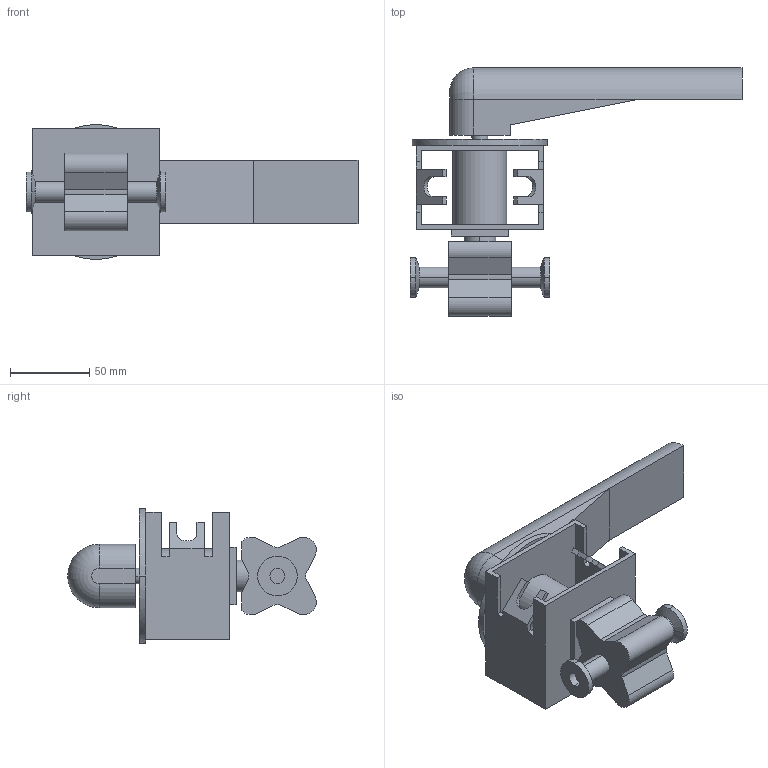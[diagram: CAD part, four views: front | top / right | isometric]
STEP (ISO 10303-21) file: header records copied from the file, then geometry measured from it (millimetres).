
FILE_DESCRIPTION(('Creo Elements/Direct Modeling STEP Export'),'2;1');
FILE_NAME('BLV1-0.5T-HL-12CL.stp','2019-05-10T 7:40:25',(''),(''),'Creo Elements/Direct Modeling STEP processor for AP214 (Solid Model)','Creo Elements/Direct Modeling 19.0F 14-Feb-2017 (C) Parametric Technology GmbH','');
FILE_SCHEMA(('AUTOMOTIVE_DESIGN { 1 0 10303 214 1 1 1 1 }'));
Length unit declared in the file: millimetre
Products named in the file (2): BLV1-0.5T-HL-12CL
Assembly tree (1 placements, depth 2):
  BLV1-0.5T-HL-12CL
    BLV1-0.5T-HL-12CL
Bounding box: 209 x 156.46 x 85 mm (x, y, z)
Volume: 385405.2 mm3; surface area: 84678.6 mm2
Topology: 1 solids, 1 shells, 111 faces, 294 edges, 192 vertices
Faces by surface type: plane 72, cylinder 34, cone 4, torus 1
Entity records: 3245 total; most frequent: ORIENTED_EDGE 588, CARTESIAN_POINT 568, DIRECTION 503, EDGE_CURVE 294, VECTOR 197, LINE 197, VERTEX_POINT 192, AXIS2_PLACEMENT_3D 153
